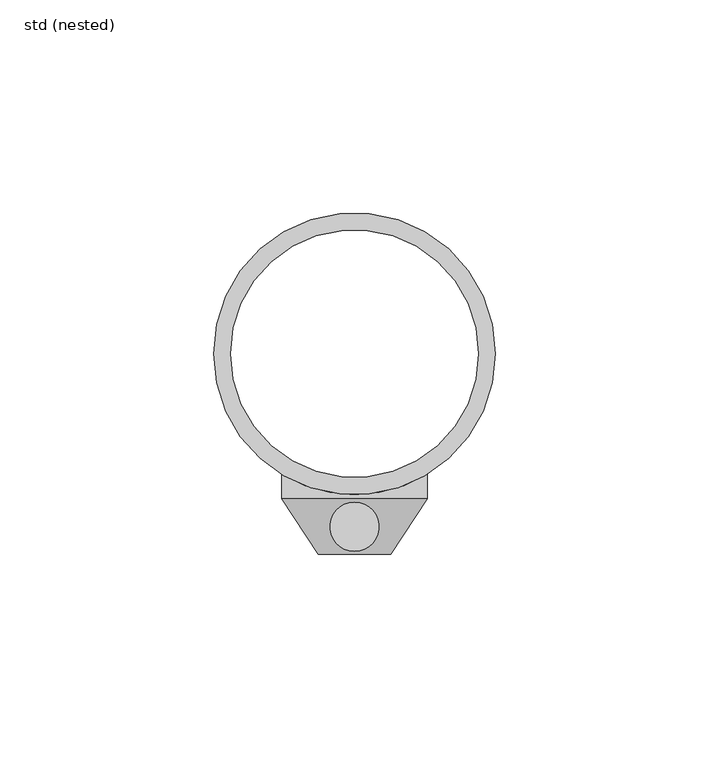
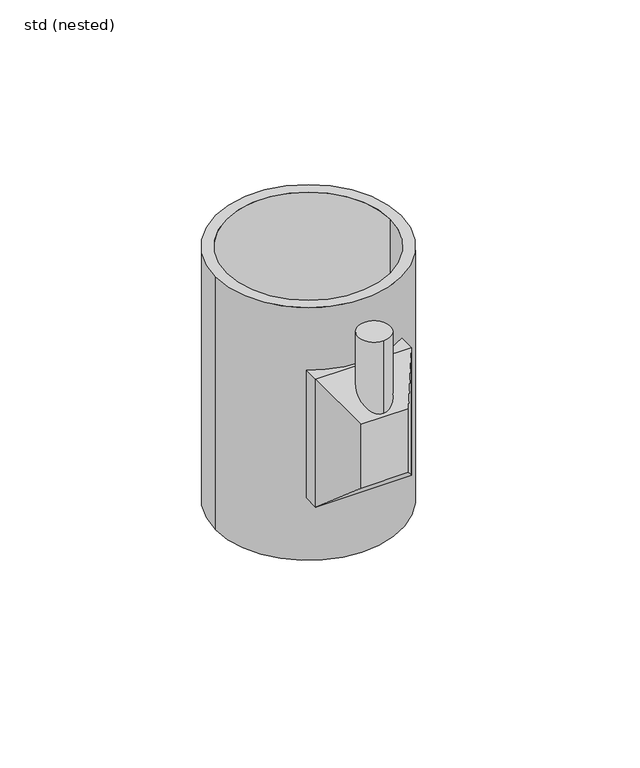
"""IFC4 building model written with IfcOpenShell, lengths in millimetres: unitary equipment geometry, ZZZ_do not use_ME_GEN_WPB_flat roof heating for Passavant Jet_ACO : std (nested)."""

from ifc_helpers import new_model, si_unit, point, frame, origin, origin_2d, place, context, project, spatial, polyline, circle_curve, ellipse_curve, trimmed, segment, composite_curve, outline, extrude, source, transform, mapped, element, save
from ifc_brep_helpers import plane_surface, cylinder_surface, advanced_brep


def std_nested_8367c126(model_context):
    return source(origin(), model_context, "Body", "SolidModel", [
        advanced_brep(
        [(8.5, -47.0, -35.5), (-8.5, -47.0, -35.5), (-8.5, -47.0, -59.5), (8.5, -47.0, -59.5), (17.0, -34.0, -23.5), (17.0, -34.0, -71.5), (-17.0, -34.0, -71.5), (-17.0, -34.0, -23.5), (0.0, -46.25, -34.8076923), (0.0, -34.75, -24.1923077), (0.0, -34.75, -7.5), (0.0, -46.25, -7.5)],
        [
            (0, 1),
            (1, 2),
            (2, 3),
            (3, 0),
            (4, 5),
            (5, 6),
            (6, 7),
            (7, 4),
            (3, 5),
            (4, 0),
            (2, 6),
            (1, 7),
            (8, 9, ellipse_curve(frame((0.0, -40.5, -29.5), z_axis=(0.0, 0.6782801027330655, -0.7348034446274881), x_axis=(0.0, -0.7348034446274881, -0.6782801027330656)), 7.8252219, 5.75)),
            (9, 8, ellipse_curve(frame((0.0, -40.5, -29.5), z_axis=(0.0, 0.6782801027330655, -0.7348034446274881), x_axis=(0.0, -0.7348034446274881, -0.6782801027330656)), 7.8252219, 5.75)),
            (10, 11, circle_curve(frame((0.0, -40.5, -7.5), z_axis=(0.0, 0.0, 1.0), x_axis=(0.0, -1.0, 0.0)), 5.75)),
            (11, 10, circle_curve(frame((0.0, -40.5, -7.5), z_axis=(0.0, 0.0, 1.0), x_axis=(0.0, -1.0, 0.0)), 5.75)),
            (10, 9),
            (8, 11),
        ],
        [
            plane_surface(frame((0.0, -47.0, -47.5), z_axis=(0.0, -1.0, 0.0), x_axis=(0.0, 0.0, -1.0))),
            plane_surface(frame((0.0, -34.0, -47.5), z_axis=(0.0, 1.0, 0.0), x_axis=(0.0, 0.0, -1.0))),
            plane_surface(frame((17.0, -34.0, -47.5), z_axis=(0.8369696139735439, -0.5472493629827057, 0.0), x_axis=(0.0, 0.0, 1.0))),
            plane_surface(frame((0.0, -34.0, -71.5), z_axis=(0.0, -0.6782801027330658, -0.7348034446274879), x_axis=(1.0, 0.0, 0.0))),
            plane_surface(frame((-17.0, -34.0, -47.5), z_axis=(-0.8369696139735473, -0.5472493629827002, 0.0), x_axis=(0.0, 0.0, -1.0))),
            plane_surface(frame((0.0, -34.0, -23.5), z_axis=(0.0, -0.6782801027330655, 0.7348034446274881), x_axis=(-1.0, 0.0, 0.0))),
            plane_surface(frame((0.0, -40.5, -7.5), z_axis=(0.0, 0.0, 1.0), x_axis=(1.0, 0.0, 0.0))),
            cylinder_surface(frame((0.0, -40.5, -47.5), z_axis=(0.0, 0.0, -1.0), x_axis=(0.0, -1.0, 0.0)), 5.75),
        ],
        [
            (0, [[1, 2, 3, 4]]),
            (1, [[5, 6, 7, 8]]),
            (2, [[-4, 9, -5, 10]]),
            (3, [[-3, 11, -6, -9]]),
            (4, [[-2, 12, -7, -11]]),
            (5, [[-1, -10, -8, -12], [13, 14]]),
            (6, [[15, 16]]),
            (7, [[-15, 17, -13, 18]]),
            (7, [[-16, -18, -14, -17]]),
        ],
    ),
        extrude(outline(composite_curve([segment(polyline([(17.0, -34.0), (-17.0, -34.0), (-17.0, -28.2842712)]), True, "CONTINUOUS"), segment(trimmed(circle_curve(origin_2d(), 33.0), [point((-17.0, -28.2842712))], [point((17.0, -28.2842712))], True, "CARTESIAN"), True, "CONTINUOUS"), segment(polyline([(17.0, -28.2842712), (17.0, -34.0)]), True, "CONTINUOUS")], self_intersect=False)), frame((0.0, 0.0, -71.5), z_axis=(0.0, 0.0, 1.0), x_axis=(1.0, 0.0, 0.0)), (0.0, 0.0, 1.0), 48.0),
        extrude(outline(composite_curve([segment(trimmed(circle_curve(origin_2d(), 33.0), [point((-33.0, 0.0))], [point((33.0, 0.0))], False, "CARTESIAN"), True, "CONTINUOUS"), segment(trimmed(circle_curve(origin_2d(), 33.0), [point((33.0, 0.0))], [point((-33.0, 0.0))], False, "CARTESIAN"), True, "CONTINUOUS")], self_intersect=False), holes=[composite_curve([segment(trimmed(circle_curve(origin_2d(), 29.0), [point((-29.0, 0.0))], [point((29.0, 0.0))], True, "CARTESIAN"), True, "CONTINUOUS"), segment(trimmed(circle_curve(origin_2d(), 29.0), [point((29.0, 0.0))], [point((-29.0, 0.0))], True, "CARTESIAN"), True, "CONTINUOUS")], self_intersect=False)]), frame((0.0, 0.0, -95.0), z_axis=(0.0, 0.0, 1.0), x_axis=(1.0, 0.0, 0.0)), (0.0, 0.0, 1.0), 95.0),
    ])


if __name__ == "__main__":
    model = new_model("IFC4")
    model_context = context("Model", 3, world=origin())
    ifc_project = project(units=[si_unit("LENGTHUNIT", "METRE", prefix="MILLI")], contexts=[model_context])
    site = spatial("IfcSite", under=ifc_project)
    building = spatial("IfcBuilding", under=site)
    placement = place(None, origin())
    std_nested_shape = std_nested_8367c126(model_context)
    element("IfcUnitaryEquipment", 1, ObjectType="ZZZ_do not use_ME_GEN_WPB_flat roof heating for Passavant Jet_ACO : std (nested)", at=placement, inside=building, context=model_context, shape_type="MappedRepresentation", body=[
        mapped(std_nested_shape, transform((0.0, 0.0, 0.0), x_axis=(1.0, 0.0, 0.0), y_axis=(0.0, 1.0, 0.0), z_axis=(0.0, 0.0, 1.0))),
    ])
    save(model, "model.ifc")
